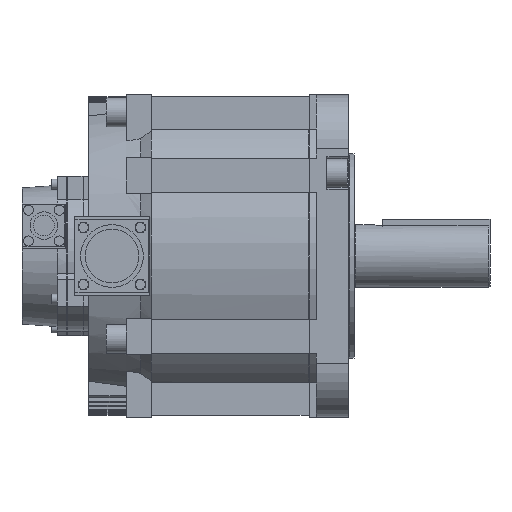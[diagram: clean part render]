
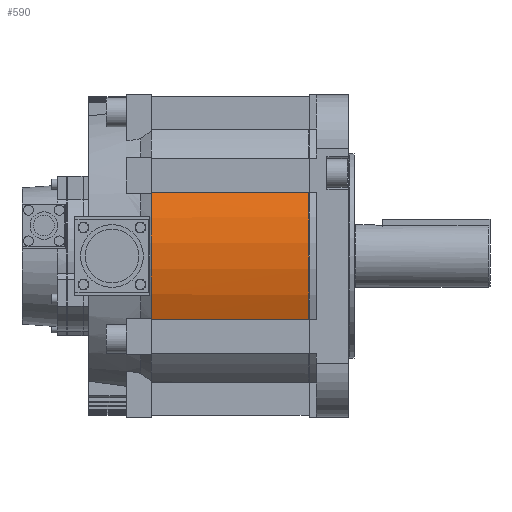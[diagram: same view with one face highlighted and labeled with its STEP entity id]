
A CAD part, front view. The second image highlights one B-rep face of the part: STEP entity #590.
In plain terms, the highlighted cylindrical face has radius 89 mm (diameter 178 mm), a partial arc.
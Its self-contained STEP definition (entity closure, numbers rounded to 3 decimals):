
#590=ADVANCED_FACE('',(#5541),#5540,.T.);
#5540=CYLINDRICAL_SURFACE('',#9271,89.);
#5541=FACE_OUTER_BOUND('',#9272,.T.);
#9268=CARTESIAN_POINT('',(-66.05,0.,0.));
#9269=DIRECTION('',(-1.,0.,0.));
#9270=DIRECTION('',(0.,0.,1.));
#9271=AXIS2_PLACEMENT_3D('',#9268,#9269,#9270);
#9272=EDGE_LOOP('',(#12446,#12447,#12448,#12449,#12450,#12451));
#12446=ORIENTED_EDGE('',*,*,#14101,.T.);
#12447=ORIENTED_EDGE('',*,*,#14024,.F.);
#12448=ORIENTED_EDGE('',*,*,#14178,.T.);
#12449=ORIENTED_EDGE('',*,*,#14656,.F.);
#12450=ORIENTED_EDGE('',*,*,#14427,.F.);
#12451=ORIENTED_EDGE('',*,*,#14647,.F.);
#14024=EDGE_CURVE('',#20550,#20557,#20558,.T.);
#14101=EDGE_CURVE('',#21081,#20557,#21082,.T.);
#14178=EDGE_CURVE('',#20550,#21597,#21598,.T.);
#14427=EDGE_CURVE('',#18351,#18582,#23225,.T.);
#14647=EDGE_CURVE('',#21081,#18351,#24671,.T.);
#14656=EDGE_CURVE('',#18582,#21597,#24725,.T.);
#18351=VERTEX_POINT('',#27738);
#18582=VERTEX_POINT('',#27883);
#20550=VERTEX_POINT('',#29161);
#20557=VERTEX_POINT('',#29165);
#20558=CIRCLE('',#29169,89.);
#21081=VERTEX_POINT('',#29487);
#21082=LINE('',#29488,#29489);
#21597=VERTEX_POINT('',#29785);
#21598=LINE('',#29786,#29787);
#23225=CIRCLE('',#30795,89.);
#24671=CIRCLE('',#31741,89.);
#24725=CIRCLE('',#31777,89.);
#27738=CARTESIAN_POINT('',(-110.,-81.829,-35.));
#27883=CARTESIAN_POINT('',(-110.,-81.829,35.));
#29161=CARTESIAN_POINT('',(-22.1,-81.526,35.7));
#29165=CARTESIAN_POINT('',(-22.1,-81.526,-35.7));
#29166=CARTESIAN_POINT('',(-22.1,0.,0.));
#29167=DIRECTION('',(1.,0.,0.));
#29168=DIRECTION('',(0.,0.916,-0.401));
#29169=AXIS2_PLACEMENT_3D('',#29166,#29167,#29168);
#29487=CARTESIAN_POINT('',(-110.,-81.526,-35.7));
#29488=CARTESIAN_POINT('',(-110.,-81.526,-35.7));
#29489=VECTOR('',#29490,87.9);
#29490=DIRECTION('',(1.,0.,0.));
#29785=CARTESIAN_POINT('',(-110.,-81.526,35.7));
#29786=CARTESIAN_POINT('',(-22.1,-81.526,35.7));
#29787=VECTOR('',#29788,87.9);
#29788=DIRECTION('',(-1.,0.,0.));
#30792=CARTESIAN_POINT('',(-110.,0.,0.));
#30793=DIRECTION('',(-1.,0.,0.));
#30794=DIRECTION('',(0.,1.,0.));
#30795=AXIS2_PLACEMENT_3D('',#30792,#30793,#30794);
#31738=CARTESIAN_POINT('',(-110.,0.,0.));
#31739=DIRECTION('',(-1.,0.,0.));
#31740=DIRECTION('',(0.,0.916,0.401));
#31741=AXIS2_PLACEMENT_3D('',#31738,#31739,#31740);
#31774=CARTESIAN_POINT('',(-110.,0.,0.));
#31775=DIRECTION('',(-1.,0.,0.));
#31776=DIRECTION('',(0.,0.919,-0.393));
#31777=AXIS2_PLACEMENT_3D('',#31774,#31775,#31776);
